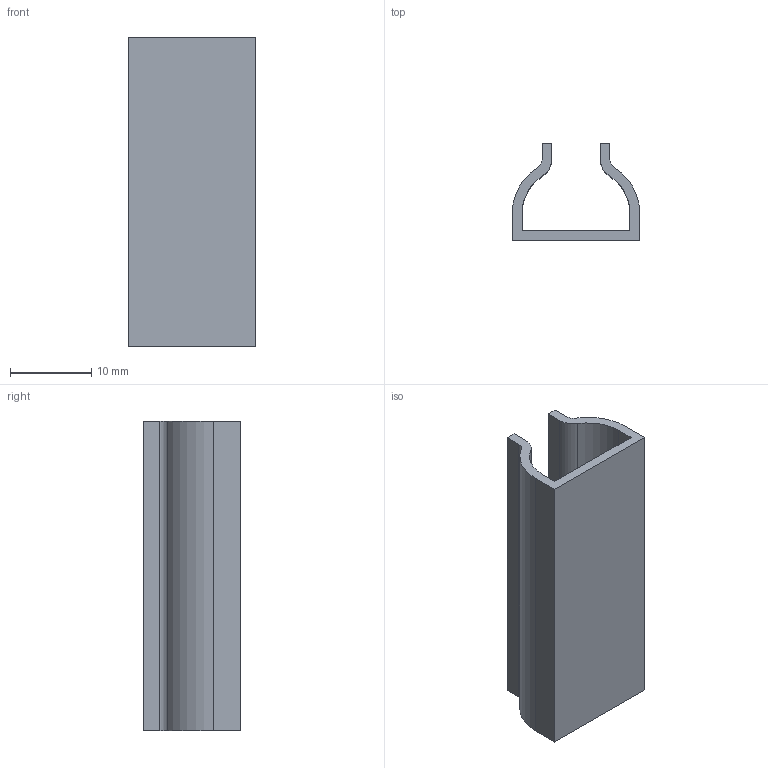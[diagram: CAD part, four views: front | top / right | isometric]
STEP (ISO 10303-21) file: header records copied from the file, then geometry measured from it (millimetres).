
FILE_DESCRIPTION (( 'STEP AP203' ), '1' );
FILE_NAME ('SLIM_EdgeLightBRKTStraightJoinType2.STEP', '2019-01-07T16:44:21', ( '' ), ( '' ), 'SwSTEP 2.0', 'SolidWorks 2017', '' );
FILE_SCHEMA (( 'CONFIG_CONTROL_DESIGN' ));
Length unit declared in the file: inch
Products named in the file (1): SLIM_EdgeLightBRKTStraightJoinType2
Bounding box: 15.7 x 11.95 x 38.1 mm (x, y, z)
Volume: 1817.9 mm3; surface area: 3216.7 mm2
Topology: 1 solids, 1 shells, 22 faces, 60 edges, 40 vertices
Faces by surface type: plane 14, cylinder 8
Entity records: 779 total; most frequent: CARTESIAN_POINT 123, DIRECTION 122, ORIENTED_EDGE 120, EDGE_CURVE 60, LINE 44, VECTOR 44, VERTEX_POINT 40, AXIS2_PLACEMENT_3D 39
